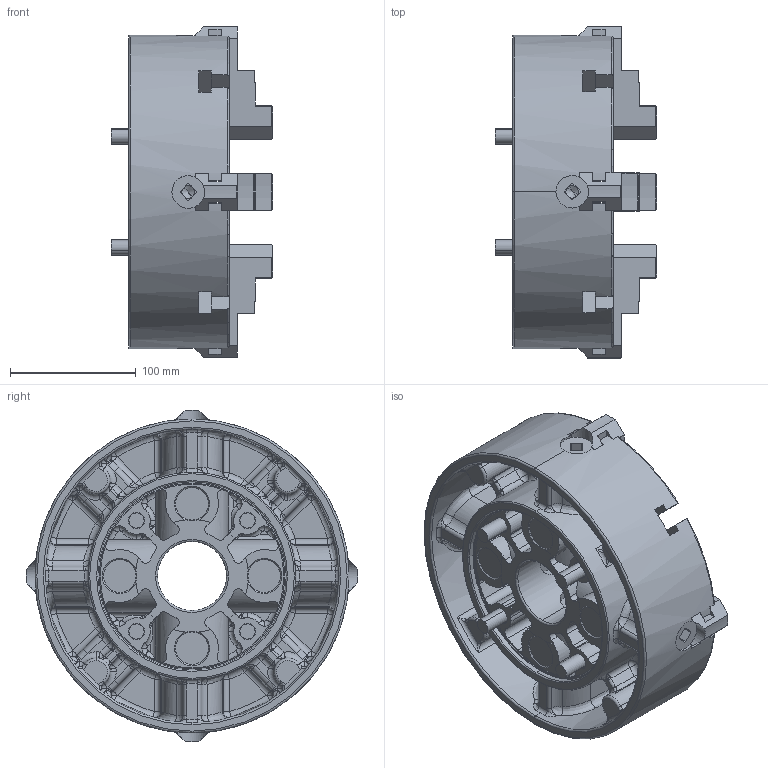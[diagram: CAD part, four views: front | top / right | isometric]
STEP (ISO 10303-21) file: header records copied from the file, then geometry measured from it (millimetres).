
FILE_DESCRIPTION (( 'STEP AP214' ), '1' );
FILE_NAME ('IC-10_ガイケイ.STEP', '2025-02-21T04:59:59', ( '' ), ( '' ), 'SwSTEP 2.0', 'SolidWorks 2022', '' );
FILE_SCHEMA (( 'AUTOMOTIVE_DESIGN' ));
Products named in the file (1): IC-10_ガイケイ
Bounding box: 129 x 264.36 x 264.36 mm (x, y, z)
Volume: 2577967 mm3; surface area: 376421.6 mm2
Topology: 1 solids, 1 shells, 1490 faces, 3924 edges, 2334 vertices
Faces by surface type: cylinder 568, plane 404, bspline 176, torus 146, sphere 104, cone 92
Entity records: 56674 total; most frequent: CARTESIAN_POINT 21981, ORIENTED_EDGE 7648, DIRECTION 7086, EDGE_CURVE 3824, AXIS2_PLACEMENT_3D 2815, VERTEX_POINT 2318, EDGE_LOOP 1522, CIRCLE 1500
